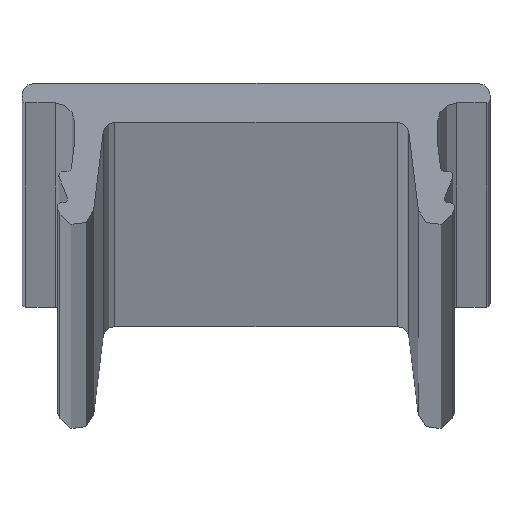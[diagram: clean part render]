
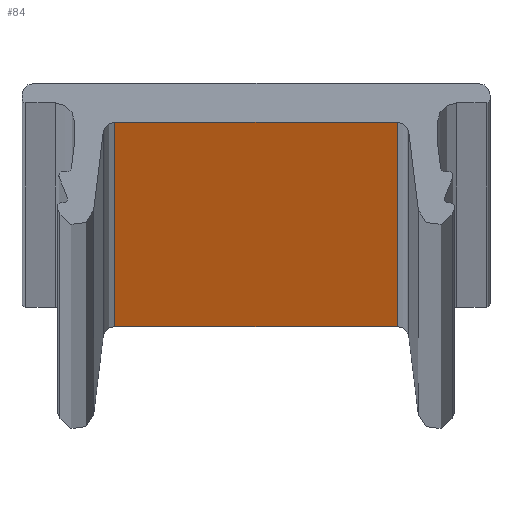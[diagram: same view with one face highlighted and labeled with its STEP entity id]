
A CAD part, top view. The second image highlights one B-rep face of the part: STEP entity #84.
In plain terms, the highlighted planar face has unit normal (0, -1, 0).
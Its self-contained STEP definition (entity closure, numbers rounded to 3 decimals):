
#1 = VECTOR ( 'NONE', #1155, 1000. ) ;
#84 = ADVANCED_FACE ( 'NONE', ( #540 ), #190, .F. ) ;
#128 = CARTESIAN_POINT ( 'NONE',  ( -3.62, -1., 1500. ) ) ;
#190 = PLANE ( 'NONE',  #1291 ) ;
#235 = VECTOR ( 'NONE', #1120, 1000. ) ;
#442 = VECTOR ( 'NONE', #913, 1000. ) ;
#514 = ORIENTED_EDGE ( 'NONE', *, *, #573, .T. ) ;
#515 = CARTESIAN_POINT ( 'NONE',  ( -3.62, -1., 1500. ) ) ;
#540 = FACE_OUTER_BOUND ( 'NONE', #667, .T. ) ;
#566 = LINE ( 'NONE', #798, #235 ) ;
#573 = EDGE_CURVE ( 'NONE', #1084, #702, #566, .T. ) ;
#575 = CARTESIAN_POINT ( 'NONE',  ( -3.62, -1., 1500. ) ) ;
#579 = VERTEX_POINT ( 'NONE', #575 ) ;
#582 = EDGE_CURVE ( 'NONE', #579, #1084, #1019, .T. ) ;
#667 = EDGE_LOOP ( 'NONE', ( #514, #815, #821, #1444 ) ) ;
#684 = EDGE_CURVE ( 'NONE', #986, #702, #900, .T. ) ;
#692 = CARTESIAN_POINT ( 'NONE',  ( 3.62, -1., 1500. ) ) ;
#697 = CARTESIAN_POINT ( 'NONE',  ( 3.62, -1., 1500. ) ) ;
#702 = VERTEX_POINT ( 'NONE', #1246 ) ;
#725 = EDGE_CURVE ( 'NONE', #579, #986, #1063, .T. ) ;
#798 = CARTESIAN_POINT ( 'NONE',  ( -3.62, -1., -1500. ) ) ;
#805 = DIRECTION ( 'NONE',  ( 0., 0., -1. ) ) ;
#815 = ORIENTED_EDGE ( 'NONE', *, *, #684, .F. ) ;
#821 = ORIENTED_EDGE ( 'NONE', *, *, #725, .F. ) ;
#867 = DIRECTION ( 'NONE',  ( 0., 1., 0. ) ) ;
#900 = LINE ( 'NONE', #692, #1334 ) ;
#913 = DIRECTION ( 'NONE',  ( 0., 0., -1. ) ) ;
#976 = CARTESIAN_POINT ( 'NONE',  ( -3.62, -1., 1500. ) ) ;
#986 = VERTEX_POINT ( 'NONE', #697 ) ;
#1019 = LINE ( 'NONE', #128, #442 ) ;
#1034 = CARTESIAN_POINT ( 'NONE',  ( -3.62, -1., -1500. ) ) ;
#1063 = LINE ( 'NONE', #515, #1 ) ;
#1084 = VERTEX_POINT ( 'NONE', #1034 ) ;
#1120 = DIRECTION ( 'NONE',  ( 1., 0., 0. ) ) ;
#1155 = DIRECTION ( 'NONE',  ( 1., 0., 0. ) ) ;
#1246 = CARTESIAN_POINT ( 'NONE',  ( 3.62, -1., -1500. ) ) ;
#1291 = AXIS2_PLACEMENT_3D ( 'NONE', #976, #867, #1448 ) ;
#1334 = VECTOR ( 'NONE', #805, 1000. ) ;
#1444 = ORIENTED_EDGE ( 'NONE', *, *, #582, .T. ) ;
#1448 = DIRECTION ( 'NONE',  ( -1., 0., 0. ) ) ;
